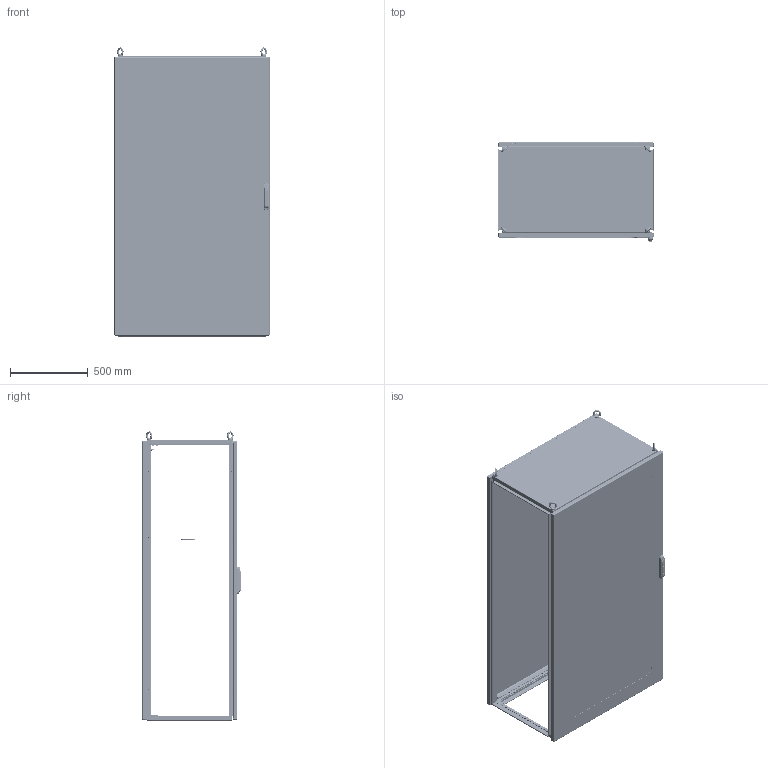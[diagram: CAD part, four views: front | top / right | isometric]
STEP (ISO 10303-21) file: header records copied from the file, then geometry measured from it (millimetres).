
FILE_DESCRIPTION(/* description */ (''),/* implementation_level */ '2;1');
FILE_NAME(/* name */ 'MLA10018060',/* time_stamp */ '2025-09-29T11:19:11+02:00',/* author */ ('INOXVENETA Spa'),/* organization */ ('www.inoxveneta.it '),/* preprocessor_version */ 'ST-DEVELOPER v19.4',/* originating_system */ 'Solid Edge',/* authorisation */ 'Unknown');
FILE_SCHEMA (('AUTOMOTIVE_DESIGN {1 0 10303 214 3 1 1}'));
Products named in the file (69): MLA10018060; F0000001.24; AE00198.03; M000X001.62; M0000000.29; AE00500.10; M000X000.45; M0000000.53; M0000000.39; M0000000.06; AE00219.03; AE00715.01; M000X000.59; M0000000.63; F0000000.18; F000X000.76; F000X000.77; F0000000.68; F0000000.07; AE00100.03_oa_0; AE00100.03_oa_1; AE00100.03_oa_2; AE00100.03_oa_3; F000X000.14; AE00989.12; M0000000.37; AE00701.03; F0000000.13; M000X002.18; F000X001.81_oa_4; F000X001.83_oa_5; F0000001.38_oa_6; F0000000.12; AE00222.15; AE00316.01; AE00992.10_oa_7; AE00992.31; AE00315.01; R1000002.13; AE00992.18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
Assembly tree (259 placements, depth 5):
  MLA10018060
    F0000001.24  x4
    AE00198.03  x16
    M000X001.62
      M0000000.29  x4
      AE00500.10  x48
      M000X000.45  x2
        M0000000.53
        M0000000.39
        M0000000.06
    AE00219.03  x8
    AE00715.01  x4
    M000X000.59
      M0000000.63
    F0000000.18
    F000X000.76
      F000X000.77
        F0000000.68
      F0000000.07  x2
      AE00100.03_oa_0
      AE00100.03_oa_1
      AE00100.03_oa_2
      AE00100.03_oa_3
    F000X000.14
      AE00989.12
    M0000000.37  x8
    AE00701.03  x4
    F0000000.13  x4
    M000X002.18
      F000X001.81_oa_4
        F000X001.83_oa_5
          F0000001.38_oa_6
        F0000000.12  x8
        AE00222.15  x8
        AE00316.01  x8
        AE00992.10_oa_7
        AE00992.31
        AE00315.01  x4
        R1000002.13  x2
        AE00992.18  x4
        AE00992.16
        AE00636.02  x8
        AE00409.01  x8
        AE00417.01  x2
        R000X001.28
          F0000002.21  x2
          F0000003.05  x2
          F0000001.46  x4
        AE00322.01  x4
      AE00413.05  x2
      M0000001.64
      C0000001.45  x2
      AE00322.01  x2
      F0000000.69  x10
      AE00192.01  x10
      ZM090300.001_oa_8
    F0000000.08  x4
    M000X000.49_oa_9
      M0000000.56
      M0000000.57
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Bounding box: 1000 x 638.7 x 1856.96 mm (x, y, z)
Volume: 15784587.4 mm3; surface area: 16863312.4 mm2
Topology: 269 solids, 270 shells, 16123 faces, 44052 edges, 28565 vertices
Faces by surface type: plane 9937, cylinder 4000, torus 738, cone 664, bspline 534, sphere 250
Full cylindrical faces by diameter (mm): 0.615 x4, 0.96 x1, 1.231 x4, 2 x4, 2.24 x2, 2.88 x1, 3 x1, 3.242 x2, 3.5 x1, 4 x13, 4.134 x11, 4.25 x204, 4.5 x992, 4.917 x73, 4.918 x8, 5 x13, 5.25 x2, 5.5 x10, 6 x78, 6.1 x20, 6.2 x8, 6.5 x34, 6.647 x6, 7.5 x2, 7.827 x6, 8 x4, 8.3 x8, 8.5 x2, 8.8 x1, 9 x48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
Entity records: 148978 total; most frequent: CARTESIAN_POINT 34937, ORIENTED_EDGE 21860, DIRECTION 21797, EDGE_CURVE 10932, LINE 7543, VECTOR 7543, VERTEX_POINT 7382, AXIS2_PLACEMENT_3D 7127
